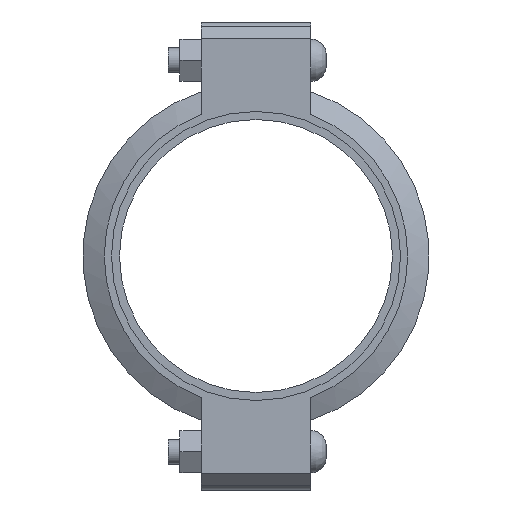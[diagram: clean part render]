
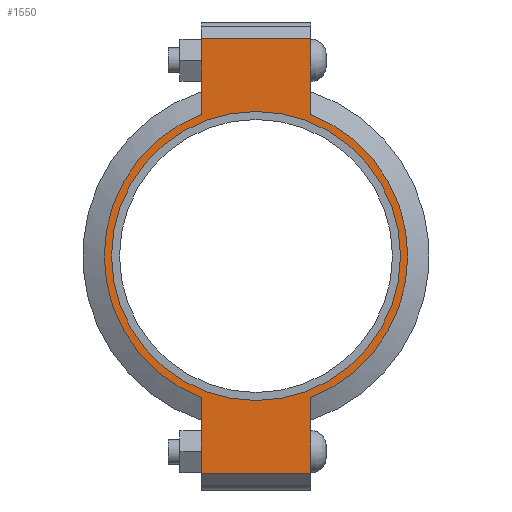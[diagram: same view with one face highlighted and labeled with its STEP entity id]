
A CAD part, left-side view. The second image highlights one B-rep face of the part: STEP entity #1550.
In plain terms, the highlighted planar face has unit normal (-1, 0, 0) as drawn and (0, 0, 1) by its records, which use the part's own axes.
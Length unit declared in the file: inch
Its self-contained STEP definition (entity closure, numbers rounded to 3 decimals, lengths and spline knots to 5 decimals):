
#174=LINE('',#2714,#267);
#182=LINE('',#2750,#275);
#189=LINE('',#2771,#282);
#198=LINE('',#2803,#291);
#199=LINE('',#2807,#292);
#200=LINE('',#2809,#293);
#267=VECTOR('',#2214,0.3937);
#275=VECTOR('',#2230,0.3937);
#282=VECTOR('',#2249,0.3937);
#291=VECTOR('',#2274,0.3937);
#292=VECTOR('',#2279,0.3937);
#293=VECTOR('',#2280,0.3937);
#349=FACE_BOUND('',#527,.T.);
#421=FACE_OUTER_BOUND('',#526,.T.);
#526=EDGE_LOOP('',(#1291,#1292,#1293,#1294,#1295,#1296,#1297,#1298));
#527=EDGE_LOOP('',(#1299));
#599=CIRCLE('',#1778,4.3125);
#625=CIRCLE('',#1837,4.53);
#626=CIRCLE('',#1838,4.53);
#691=VERTEX_POINT('',#2530);
#734=VERTEX_POINT('',#2711);
#735=VERTEX_POINT('',#2713);
#746=VERTEX_POINT('',#2745);
#747=VERTEX_POINT('',#2749);
#754=VERTEX_POINT('',#2768);
#755=VERTEX_POINT('',#2770);
#765=VERTEX_POINT('',#2806);
#766=VERTEX_POINT('',#2808);
#847=EDGE_CURVE('',#691,#691,#599,.T.);
#908=EDGE_CURVE('',#735,#734,#174,.T.);
#922=EDGE_CURVE('',#747,#746,#182,.T.);
#932=EDGE_CURVE('',#755,#754,#189,.T.);
#947=EDGE_CURVE('',#747,#734,#198,.T.);
#948=EDGE_CURVE('',#746,#755,#625,.T.);
#949=EDGE_CURVE('',#765,#754,#199,.T.);
#950=EDGE_CURVE('',#765,#766,#200,.T.);
#951=EDGE_CURVE('',#766,#735,#626,.T.);
#1291=ORIENTED_EDGE('',*,*,#947,.F.);
#1292=ORIENTED_EDGE('',*,*,#922,.T.);
#1293=ORIENTED_EDGE('',*,*,#948,.T.);
#1294=ORIENTED_EDGE('',*,*,#932,.T.);
#1295=ORIENTED_EDGE('',*,*,#949,.F.);
#1296=ORIENTED_EDGE('',*,*,#950,.T.);
#1297=ORIENTED_EDGE('',*,*,#951,.T.);
#1298=ORIENTED_EDGE('',*,*,#908,.T.);
#1299=ORIENTED_EDGE('',*,*,#847,.T.);
#1392=PLANE('',#1836);
#1550=ADVANCED_FACE('',(#421,#349),#1392,.T.);
#1778=AXIS2_PLACEMENT_3D('',#2532,#2090,#2091);
#1836=AXIS2_PLACEMENT_3D('',#2804,#2275,#2276);
#1837=AXIS2_PLACEMENT_3D('',#2805,#2277,#2278);
#1838=AXIS2_PLACEMENT_3D('',#2810,#2281,#2282);
#2090=DIRECTION('center_axis',(0.,0.,-1.));
#2091=DIRECTION('ref_axis',(1.,0.,0.));
#2214=DIRECTION('',(1.,0.,0.));
#2230=DIRECTION('',(-1.,0.,0.));
#2249=DIRECTION('',(-1.,0.,0.));
#2274=DIRECTION('',(0.,-1.,0.));
#2275=DIRECTION('center_axis',(0.,0.,1.));
#2276=DIRECTION('ref_axis',(-1.,0.,0.));
#2277=DIRECTION('center_axis',(0.,0.,1.));
#2278=DIRECTION('ref_axis',(1.,0.,0.));
#2279=DIRECTION('',(0.,1.,0.));
#2280=DIRECTION('',(1.,0.,0.));
#2281=DIRECTION('center_axis',(0.,0.,1.));
#2282=DIRECTION('ref_axis',(1.,0.,0.));
#2530=CARTESIAN_POINT('',(-4.3125,0.,1.16));
#2532=CARTESIAN_POINT('Origin',(0.,0.,1.16));
#2711=CARTESIAN_POINT('',(6.485,-1.63,1.16));
#2713=CARTESIAN_POINT('',(4.22658,-1.63,1.16));
#2714=CARTESIAN_POINT('',(6.985,-1.63,1.16));
#2745=CARTESIAN_POINT('',(4.22658,1.63,1.16));
#2749=CARTESIAN_POINT('',(6.485,1.63,1.16));
#2750=CARTESIAN_POINT('',(-6.985,1.63,1.16));
#2768=CARTESIAN_POINT('',(-6.485,1.63,1.16));
#2770=CARTESIAN_POINT('',(-4.22658,1.63,1.16));
#2771=CARTESIAN_POINT('',(-6.985,1.63,1.16));
#2803=CARTESIAN_POINT('',(6.485,-0.815,1.16));
#2804=CARTESIAN_POINT('Origin',(0.,0.,
1.16));
#2805=CARTESIAN_POINT('Origin',(0.,0.,1.16));
#2806=CARTESIAN_POINT('',(-6.485,-1.63,1.16));
#2807=CARTESIAN_POINT('',(-6.485,0.815,1.16));
#2808=CARTESIAN_POINT('',(-4.22658,-1.63,1.16));
#2809=CARTESIAN_POINT('',(6.985,-1.63,1.16));
#2810=CARTESIAN_POINT('Origin',(0.,0.,1.16));
